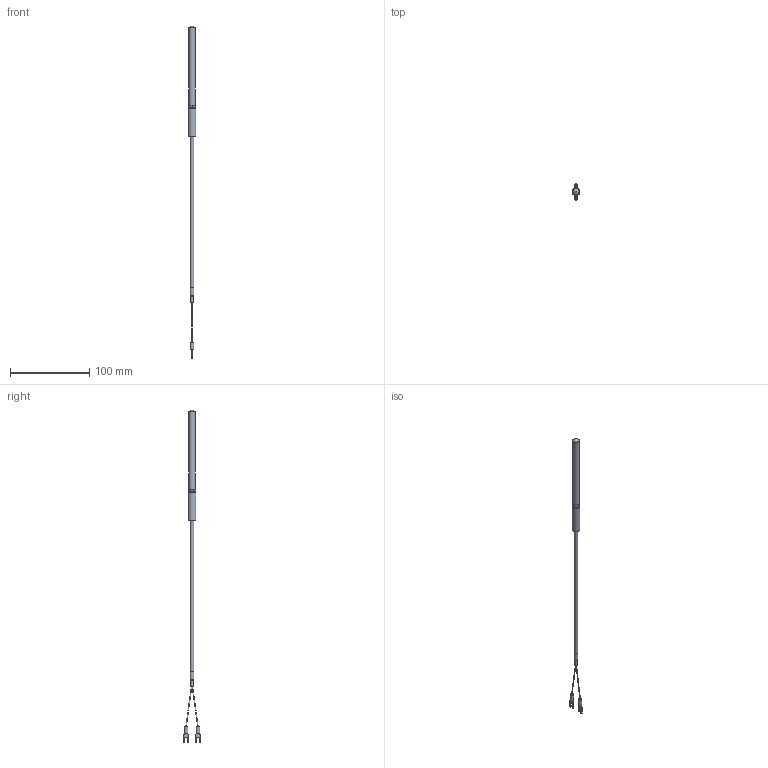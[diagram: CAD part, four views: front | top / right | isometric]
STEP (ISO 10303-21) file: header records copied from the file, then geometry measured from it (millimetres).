
FILE_DESCRIPTION (( 'STEP AP203' ), '1' );
FILE_NAME ('YIT101-7(0).STEP', '2024-11-21T04:05:27', ( '' ), ( '' ), 'SwSTEP 2.0', 'SolidWorks 2021', '' );
FILE_SCHEMA (( 'CONFIG_CONTROL_DESIGN' ));
Length unit declared in the file: millimetre
Products named in the file (1): YIT101-7(0)
Bounding box: 10 x 20.85 x 420 mm (x, y, z)
Volume: 12133.6 mm3; surface area: 7752 mm2
Topology: 1 solids, 1 shells, 66 faces, 159 edges, 103 vertices
Faces by surface type: plane 34, cylinder 21, bspline 8, cone 2, torus 1
Full cylindrical faces by diameter (mm): 3.16 x1, 4.5 x2, 4.8 x1, 5 x1, 8 x1, 10 x1
Entity records: 2105 total; most frequent: CARTESIAN_POINT 559, DIRECTION 296, ORIENTED_EDGE 288, EDGE_CURVE 144, AXIS2_PLACEMENT_3D 105, VERTEX_POINT 100, EDGE_LOOP 86, VECTOR 86
